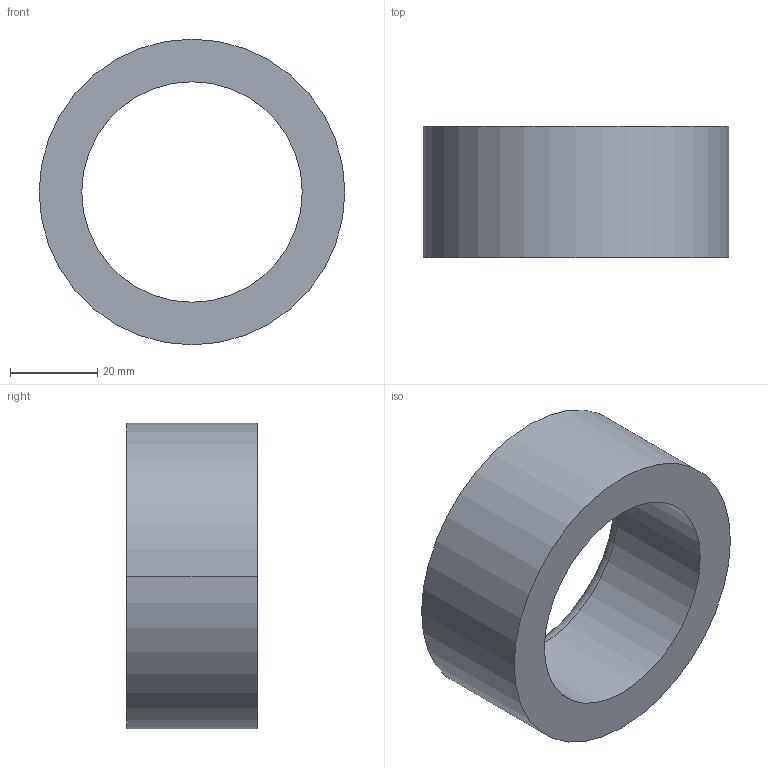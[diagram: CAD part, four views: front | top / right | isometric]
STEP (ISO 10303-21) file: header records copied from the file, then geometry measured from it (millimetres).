
FILE_DESCRIPTION (( 'STEP AP203' ), '1' );
FILE_NAME ('30800.WPP70L50.5.step', '2019-01-23T22:59:45', ( '' ), ( '' ), 'SwSTEP 2.0', 'SolidWorks 2017', '' );
FILE_SCHEMA (( 'CONFIG_CONTROL_DESIGN' ));
Length unit declared in the file: millimetre
Products named in the file (1): 30800.WPP70L50.5
Bounding box: 70 x 30 x 70 mm (x, y, z)
Volume: 54934.7 mm3; surface area: 14815 mm2
Topology: 1 solids, 1 shells, 8 faces, 16 edges, 10 vertices
Faces by surface type: cylinder 4, torus 2, plane 2
Entity records: 297 total; most frequent: DIRECTION 46, CARTESIAN_POINT 35, ORIENTED_EDGE 32, AXIS2_PLACEMENT_3D 21, EDGE_CURVE 16, CIRCLE 12, EDGE_LOOP 10, VERTEX_POINT 10
